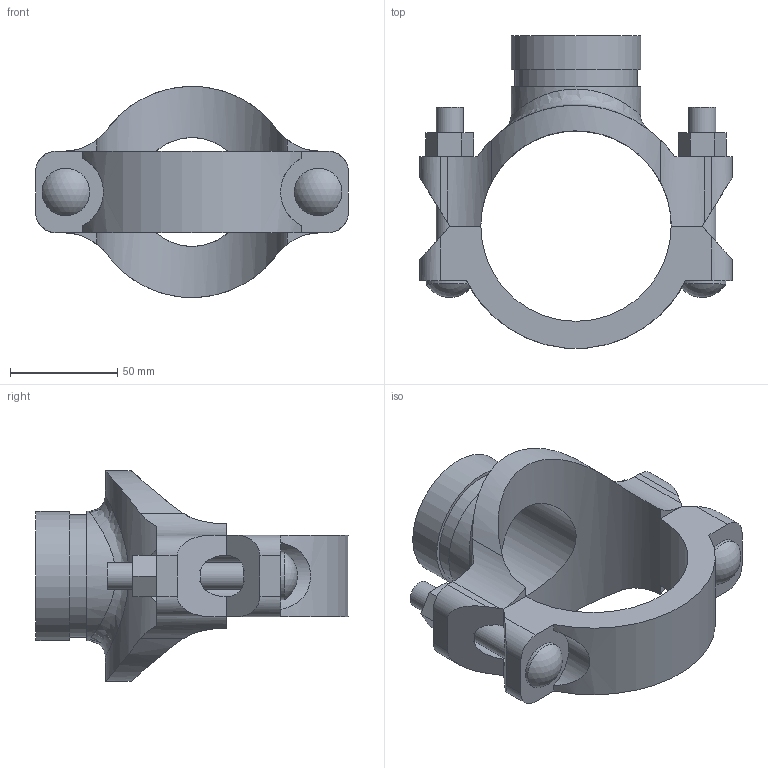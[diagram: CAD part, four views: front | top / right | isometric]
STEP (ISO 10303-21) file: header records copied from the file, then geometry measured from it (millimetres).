
FILE_DESCRIPTION(/* description */ ('VIC SS MECHANICAL T BRANCH OUTLET STYLE 422 (OGS)','CAx-IF Rec.Pracs.---Representation and Presentation of Product Manufacturing Information (PMI)---4.0---2014-10-13'),/* implementation_level */ '2;1');
FILE_NAME(/* name */ 'C:\Files for Export\422\STEP\Victaulic_SS-OGS_Mech-Tee Out_Style 422 (OGS)\Victaulic_SS-OGS_Mech-Tee Out_Style 422 (OGS)_03.0x02.0 (80x50).stp',/* time_stamp */ '2023-03-28T13:59:42+02:00',/* author */ ('jheald'),/* organization */ ('Victaulic'),/* preprocessor_version */ 'ST-DEVELOPER v18.1',/* originating_system */ 'Autodesk Inventor 2020',/* authorisation */ '');
FILE_SCHEMA (('AP242_MANAGED_MODEL_BASED_3D_ENGINEERING_MIM_LF { 1 0 10303 442 1 1 4 }'));
Length unit declared in the file: inch
Products named in the file (1): 422-03.0x02.0
Bounding box: 146.05 x 145.84 x 98.54 mm (x, y, z)
Volume: 272722.5 mm3; surface area: 73263.6 mm2
Topology: 1 solids, 1 shells, 89 faces, 257 edges, 173 vertices
Faces by surface type: plane 51, cylinder 35, sphere 2, bspline 1
Full cylindrical faces by diameter (mm): 12.7 x4, 22.225 x2, 50.8 x1, 57.15 x1, 60.325 x2, 88.9 x1
Entity records: 3683 total; most frequent: CARTESIAN_POINT 1051, DIRECTION 529, ORIENTED_EDGE 514, EDGE_CURVE 257, AXIS2_PLACEMENT_3D 191, VERTEX_POINT 173, LINE 147, VECTOR 147
